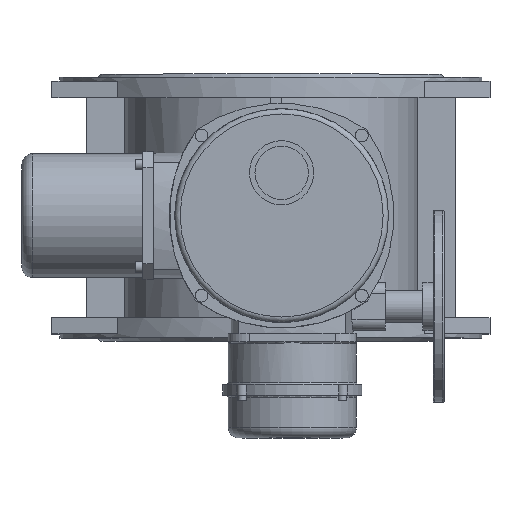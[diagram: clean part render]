
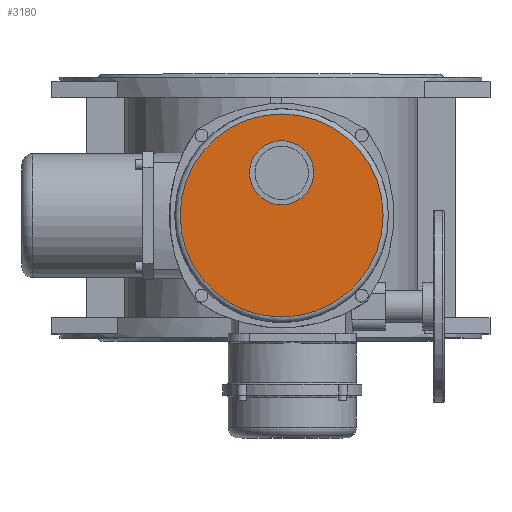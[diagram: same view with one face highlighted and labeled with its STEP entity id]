
A CAD part, top view. The second image highlights one B-rep face of the part: STEP entity #3180.
In plain terms, the highlighted planar face has unit normal (0, 0, 1).
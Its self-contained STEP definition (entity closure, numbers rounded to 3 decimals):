
#3180=ADVANCED_FACE('',(#6937,#6939),#6941,.T.);
#6937=FACE_BOUND('',#6938,.T.);
#6938=EDGE_LOOP('',(#8823));
#6939=FACE_BOUND('',#6940,.T.);
#6940=EDGE_LOOP('',(#8824));
#6941=PLANE('',#6942);
#6942=AXIS2_PLACEMENT_3D('',#6943,#6944,#6945);
#6943=CARTESIAN_POINT('',(10.,-8.,452.));
#6944=DIRECTION('',(0.,0.,1.));
#6945=DIRECTION('',(1.,0.,0.));
#8823=ORIENTED_EDGE('',*,*,#9724,.T.);
#8824=ORIENTED_EDGE('',*,*,#9787,.F.);
#9724=EDGE_CURVE('',#11119,#11119,#11120,.T.);
#9787=EDGE_CURVE('',#11221,#11221,#11222,.T.);
#11119=VERTEX_POINT('',#16686);
#11120=CIRCLE('',#16687,95.);
#11221=VERTEX_POINT('',#16947);
#11222=CIRCLE('',#16948,30.);
#16686=CARTESIAN_POINT('',(105.,-8.,452.));
#16687=AXIS2_PLACEMENT_3D('',#16688,#16689,#16690);
#16688=CARTESIAN_POINT('',(10.,-8.,452.));
#16689=DIRECTION('',(0.,0.,1.));
#16690=DIRECTION('',(1.,0.,0.));
#16947=CARTESIAN_POINT('',(40.,32.,452.));
#16948=AXIS2_PLACEMENT_3D('',#16949,#16950,#16951);
#16949=CARTESIAN_POINT('',(10.,32.,452.));
#16950=DIRECTION('',(0.,0.,1.));
#16951=DIRECTION('',(1.,0.,0.));
